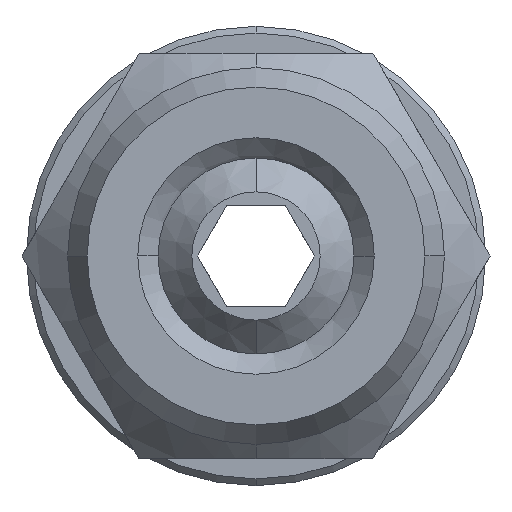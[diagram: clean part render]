
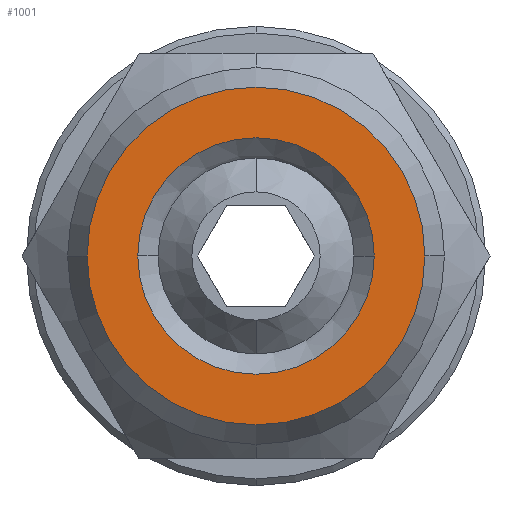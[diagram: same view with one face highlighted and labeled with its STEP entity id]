
A CAD part, front view. The second image highlights one B-rep face of the part: STEP entity #1001.
In plain terms, the highlighted planar face has unit normal (0, -1, 0).
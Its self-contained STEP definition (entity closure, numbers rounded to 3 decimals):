
#162 = CIRCLE ( 'NONE', #3004, 2.5 ) ;
#401 = DIRECTION ( 'NONE',  ( 0., -1., 0. ) ) ;
#413 = EDGE_LOOP ( 'NONE', ( #2207, #2205 ) ) ;
#415 = EDGE_CURVE ( 'NONE', #891, #2150, #1461, .T. ) ;
#573 = AXIS2_PLACEMENT_3D ( 'NONE', #1478, #3368, #1751 ) ;
#658 = DIRECTION ( 'NONE',  ( 0., -1., 0. ) ) ;
#738 = FACE_OUTER_BOUND ( 'NONE', #2803, .T. ) ;
#748 = DIRECTION ( 'NONE',  ( -1., 0., 0. ) ) ;
#809 = DIRECTION ( 'NONE',  ( 0., -1., 0. ) ) ;
#891 = VERTEX_POINT ( 'NONE', #3413 ) ;
#1001 = ADVANCED_FACE ( 'NONE', ( #738, #2078 ), #1997, .T. ) ;
#1067 = CARTESIAN_POINT ( 'NONE',  ( 0., 0., 0. ) ) ;
#1169 = DIRECTION ( 'NONE',  ( -1., 0., 0. ) ) ;
#1342 = AXIS2_PLACEMENT_3D ( 'NONE', #1067, #809, #748 ) ;
#1413 = CARTESIAN_POINT ( 'NONE',  ( 0., 0., 0. ) ) ;
#1444 = ORIENTED_EDGE ( 'NONE', *, *, #3295, .T. ) ;
#1461 = CIRCLE ( 'NONE', #1342, 1.75 ) ;
#1478 = CARTESIAN_POINT ( 'NONE',  ( 0., 0., 0. ) ) ;
#1512 = VERTEX_POINT ( 'NONE', #2868 ) ;
#1607 = CARTESIAN_POINT ( 'NONE',  ( 2.5, 0., 0. ) ) ;
#1644 = VERTEX_POINT ( 'NONE', #1607 ) ;
#1692 = DIRECTION ( 'NONE',  ( -1., 0., 0. ) ) ;
#1736 = CIRCLE ( 'NONE', #1921, 1.75 ) ;
#1751 = DIRECTION ( 'NONE',  ( -1., 0., 0. ) ) ;
#1921 = AXIS2_PLACEMENT_3D ( 'NONE', #1413, #3310, #1692 ) ;
#1997 = PLANE ( 'NONE',  #3248 ) ;
#2078 = FACE_BOUND ( 'NONE', #413, .T. ) ;
#2150 = VERTEX_POINT ( 'NONE', #2905 ) ;
#2205 = ORIENTED_EDGE ( 'NONE', *, *, #3178, .F. ) ;
#2207 = ORIENTED_EDGE ( 'NONE', *, *, #415, .F. ) ;
#2263 = CARTESIAN_POINT ( 'NONE',  ( 0., 0., 0. ) ) ;
#2272 = CARTESIAN_POINT ( 'NONE',  ( 0., 0., 0. ) ) ;
#2542 = DIRECTION ( 'NONE',  ( -1., 0., 0. ) ) ;
#2626 = EDGE_CURVE ( 'NONE', #1644, #1512, #3019, .T. ) ;
#2803 = EDGE_LOOP ( 'NONE', ( #3370, #1444 ) ) ;
#2868 = CARTESIAN_POINT ( 'NONE',  ( -2.5, 0., 0. ) ) ;
#2905 = CARTESIAN_POINT ( 'NONE',  ( 1.75, 0., 0. ) ) ;
#3004 = AXIS2_PLACEMENT_3D ( 'NONE', #2272, #658, #2542 ) ;
#3019 = CIRCLE ( 'NONE', #573, 2.5 ) ;
#3178 = EDGE_CURVE ( 'NONE', #2150, #891, #1736, .T. ) ;
#3248 = AXIS2_PLACEMENT_3D ( 'NONE', #2263, #401, #1169 ) ;
#3295 = EDGE_CURVE ( 'NONE', #1512, #1644, #162, .T. ) ;
#3310 = DIRECTION ( 'NONE',  ( 0., -1., 0. ) ) ;
#3368 = DIRECTION ( 'NONE',  ( 0., -1., 0. ) ) ;
#3370 = ORIENTED_EDGE ( 'NONE', *, *, #2626, .T. ) ;
#3413 = CARTESIAN_POINT ( 'NONE',  ( -1.75, 0., 0. ) ) ;
